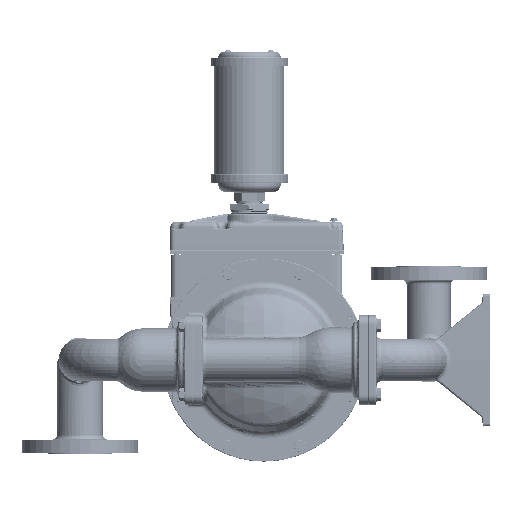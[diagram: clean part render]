
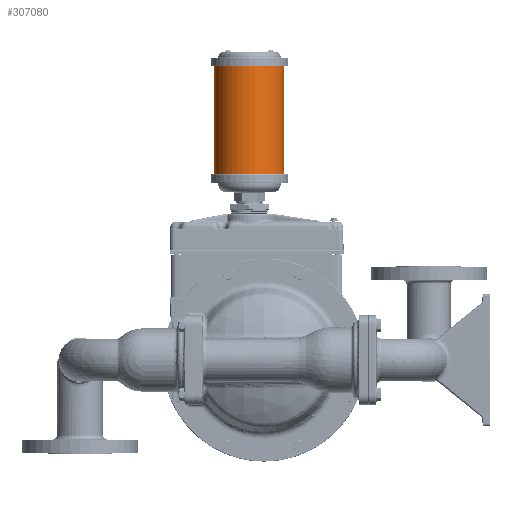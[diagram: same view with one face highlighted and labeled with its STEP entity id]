
A CAD part, left-side view. The second image highlights one B-rep face of the part: STEP entity #307080.
In plain terms, the highlighted cylindrical face has radius 45.339 mm (diameter 90.678 mm), a partial arc.
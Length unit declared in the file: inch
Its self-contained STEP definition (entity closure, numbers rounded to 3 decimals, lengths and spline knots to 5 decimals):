
#17027 = EDGE_CURVE ( 'NONE', #345455, #276203, #315356, .T. ) ;
#52627 = CARTESIAN_POINT ( 'NONE',  ( 0., 0.75, 16.079 ) ) ;
#64130 = CARTESIAN_POINT ( 'NONE',  ( 0., 0.75, 9.47 ) ) ;
#92598 = AXIS2_PLACEMENT_3D ( 'NONE', #272769, #188842, #270042 ) ;
#96360 = CARTESIAN_POINT ( 'NONE',  ( 0., 2.535, 9.47 ) ) ;
#111571 = DIRECTION ( 'NONE',  ( 0., 1., 0. ) ) ;
#147339 = ORIENTED_EDGE ( 'NONE', *, *, #17027, .F. ) ;
#147942 = EDGE_LOOP ( 'NONE', ( #296866, #147339, #169453, #504751 ) ) ;
#157460 = CARTESIAN_POINT ( 'NONE',  ( 0., 2.535, 14.97 ) ) ;
#169453 = ORIENTED_EDGE ( 'NONE', *, *, #410751, .T. ) ;
#174616 = EDGE_CURVE ( 'NONE', #402311, #276203, #372456, .T. ) ;
#179204 = AXIS2_PLACEMENT_3D ( 'NONE', #52627, #223030, #181092 ) ;
#181092 = DIRECTION ( 'NONE',  ( 0., -1., 0. ) ) ;
#188842 = DIRECTION ( 'NONE',  ( 0., 0., -1. ) ) ;
#208901 = LINE ( 'NONE', #507911, #398506 ) ;
#223030 = DIRECTION ( 'NONE',  ( 0., 0., -1. ) ) ;
#245327 = DIRECTION ( 'NONE',  ( 0., 0., -1. ) ) ;
#265005 = FACE_OUTER_BOUND ( 'NONE', #147942, .T. ) ;
#270042 = DIRECTION ( 'NONE',  ( 0., -1., 0. ) ) ;
#272769 = CARTESIAN_POINT ( 'NONE',  ( 0., 0.75, 14.97 ) ) ;
#276203 = VERTEX_POINT ( 'NONE', #372640 ) ;
#296866 = ORIENTED_EDGE ( 'NONE', *, *, #174616, .T. ) ;
#307080 = ADVANCED_FACE ( 'NONE', ( #265005 ), #443670, .T. ) ;
#315356 = LINE ( 'NONE', #351853, #483663 ) ;
#340631 = CARTESIAN_POINT ( 'NONE',  ( 0., -1.035, 14.97 ) ) ;
#345455 = VERTEX_POINT ( 'NONE', #340631 ) ;
#351853 = CARTESIAN_POINT ( 'NONE',  ( 0., -1.035, 14.97 ) ) ;
#372456 = CIRCLE ( 'NONE', #461398, 1.785 ) ;
#372640 = CARTESIAN_POINT ( 'NONE',  ( 0., -1.035, 9.47 ) ) ;
#378218 = CIRCLE ( 'NONE', #92598, 1.785 ) ;
#398506 = VECTOR ( 'NONE', #245327, 39.37008 ) ;
#402311 = VERTEX_POINT ( 'NONE', #96360 ) ;
#410751 = EDGE_CURVE ( 'NONE', #345455, #545478, #378218, .T. ) ;
#443670 = CYLINDRICAL_SURFACE ( 'NONE', #179204, 1.785 ) ;
#449729 = DIRECTION ( 'NONE',  ( 0., 0., 1. ) ) ;
#461398 = AXIS2_PLACEMENT_3D ( 'NONE', #64130, #449729, #111571 ) ;
#483663 = VECTOR ( 'NONE', #522236, 39.37008 ) ;
#504751 = ORIENTED_EDGE ( 'NONE', *, *, #526073, .T. ) ;
#507911 = CARTESIAN_POINT ( 'NONE',  ( 0., 2.535, 14.97 ) ) ;
#522236 = DIRECTION ( 'NONE',  ( 0., 0., -1. ) ) ;
#526073 = EDGE_CURVE ( 'NONE', #545478, #402311, #208901, .T. ) ;
#545478 = VERTEX_POINT ( 'NONE', #157460 ) ;
